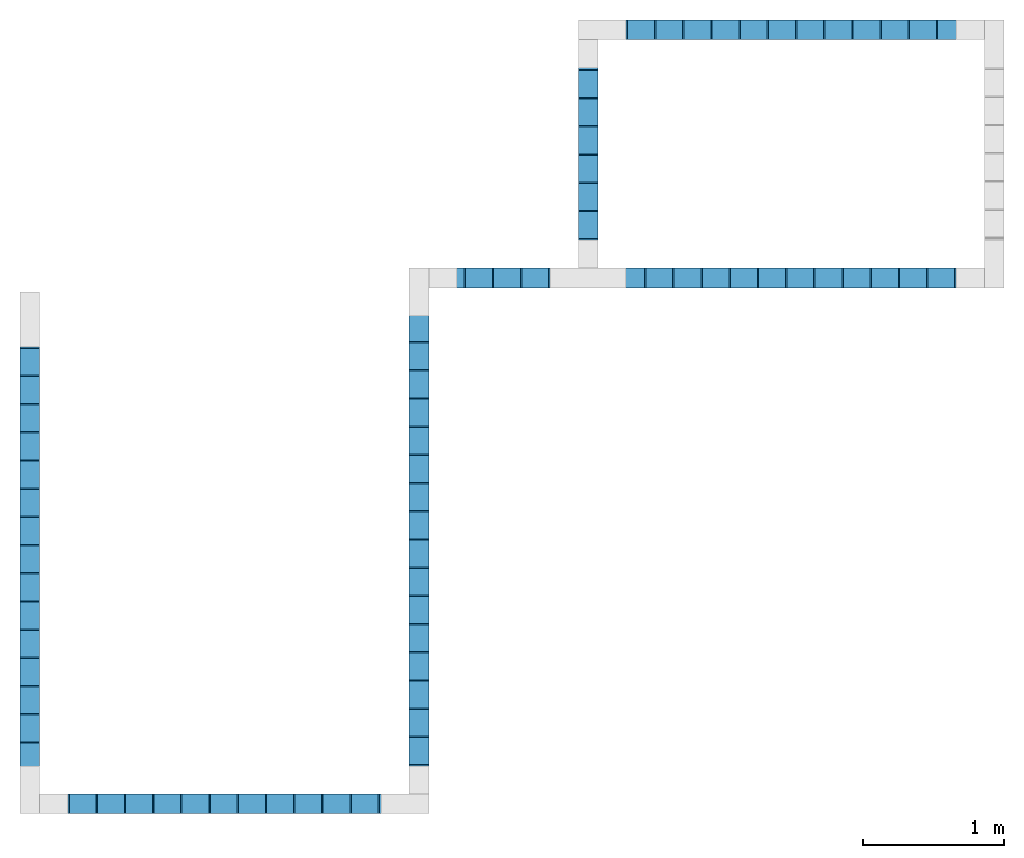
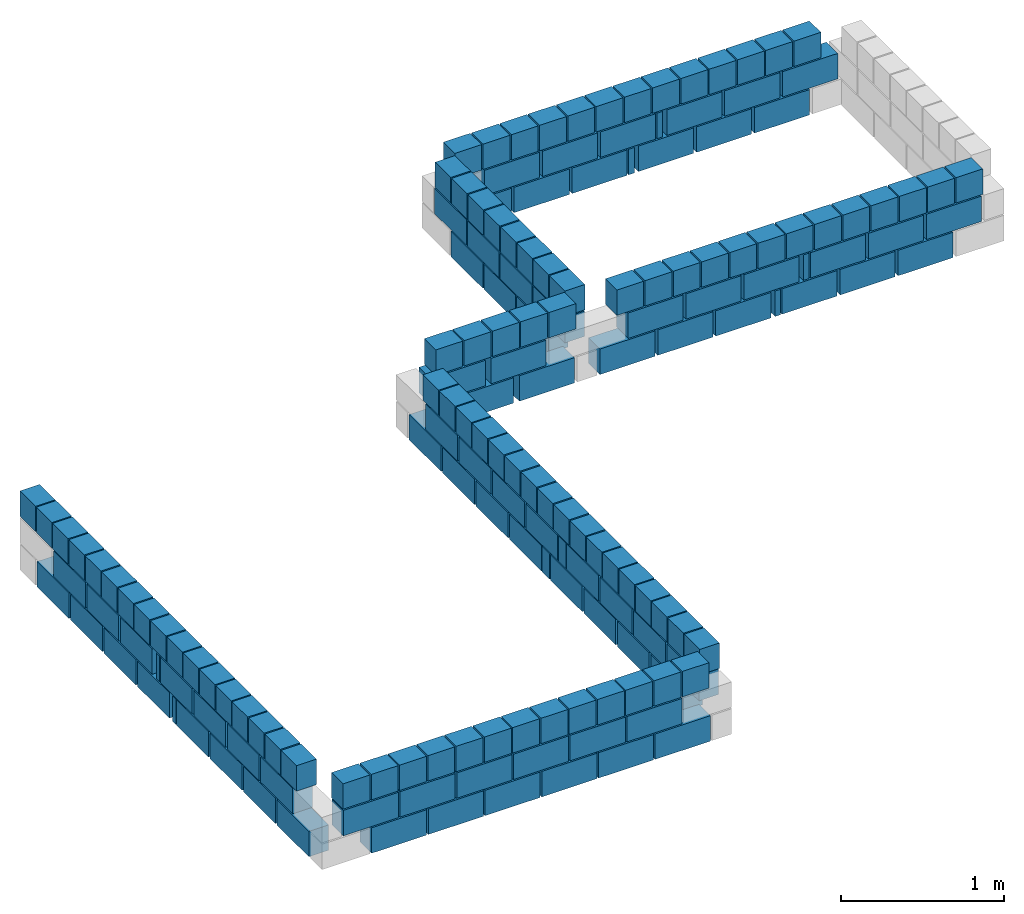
# One storey, part 1 of 2: 7 walls.
"""IFC4 building model written with IfcOpenShell, lengths in centimetres."""

from ifc_helpers import new_model, si_unit, derived_unit, frame, origin, origin_with_axes, origin_2d_with_axis, place, context, project, spatial, rectangle, extrude, element, save


model = new_model("IFC4")

# Units and contexts
model_context = context("Model", 3, precision=1e-05, world=origin_with_axes(), identifier="Body")
ifc_project = project(units=[si_unit("LENGTHUNIT", "METRE", prefix="CENTI"), si_unit("VOLUMEUNIT", "CUBIC_METRE"), si_unit("AREAUNIT", "SQUARE_METRE"), si_unit("POWERUNIT", "WATT"), si_unit("LUMINOUSFLUXUNIT", "LUMEN"), si_unit("ELECTRICCURRENTUNIT", "AMPERE"), si_unit("PRESSUREUNIT", "PASCAL", prefix="KILO"), si_unit("MASSUNIT", "GRAM", prefix="KILO"), si_unit("PLANEANGLEUNIT", "RADIAN"), derived_unit("VOLUMETRICFLOWRATEUNIT", [(si_unit("LENGTHUNIT", "METRE"), 3), (si_unit("TIMEUNIT", "SECOND"), -1)])], contexts=[model_context])

# Site, building, storey
site_placement = place(None, origin_with_axes())
site = spatial("IfcSite", under=ifc_project, at=site_placement)
building_placement = place(site_placement, origin())
building = spatial("IfcBuilding", under=site, at=building_placement)
placement_1 = place(building_placement, origin_with_axes())
placement_2 = place(placement_1, frame((0.0, 0.0, 272.0), z_axis=(0.0, 0.0, 1.0), x_axis=(1.0, 0.0, 0.0)))
storey_placement = place(placement_2, frame((0.0, 0.0, 100.0), z_axis=(0.0, 0.0, 1.0), x_axis=(1.0, 0.0, 0.0)))
storey = spatial("IfcBuildingStorey", under=building, at=storey_placement, Name="RESP1", CompositionType="ELEMENT", Elevation=372.0)

# Walls
wall_1_placement = place(storey_placement, frame((547.51, 557.01, 59.0), z_axis=(0.0, 0.0, 1.0), x_axis=(1.0, 0.0, 0.0)))
element("IfcWall", 1, at=wall_1_placement, inside=storey, Name="PAR-RESP1-1", context=model_context, shape_type="SolidModel", body=[
    extrude(rectangle(XDim=39.0, YDim=14.0, at=origin_2d_with_axis()), frame((-115.0, 0.0, -59.0), z_axis=(0.0, 0.0, 1.0), x_axis=(1.0, 0.0, 0.0)), (0.0, 0.0, 1.0), 19.0),
    extrude(rectangle(XDim=39.0, YDim=14.0, at=origin_2d_with_axis()), frame((-74.0, 0.0, -59.0), z_axis=(0.0, 0.0, 1.0), x_axis=(1.0, 0.0, 0.0)), (0.0, 0.0, 1.0), 19.0),
    extrude(rectangle(XDim=39.0, YDim=14.0, at=origin_2d_with_axis()), frame((-33.0, 0.0, -59.0), z_axis=(0.0, 0.0, 1.0), x_axis=(1.0, 0.0, 0.0)), (0.0, 0.0, 1.0), 19.0),
    extrude(rectangle(XDim=39.0, YDim=14.0, at=origin_2d_with_axis()), frame((14.0, 0.0, -59.0), z_axis=(0.0, 0.0, 1.0), x_axis=(1.0, 0.0, 0.0)), (0.0, 0.0, 1.0), 19.0),
    extrude(rectangle(XDim=39.0, YDim=14.0, at=origin_2d_with_axis()), frame((55.0, 0.0, -59.0), z_axis=(0.0, 0.0, 1.0), x_axis=(1.0, 0.0, 0.0)), (0.0, 0.0, 1.0), 19.0),
    extrude(rectangle(XDim=39.0, YDim=14.0, at=origin_2d_with_axis()), frame((96.0, 0.0, -59.0), z_axis=(0.0, 0.0, 1.0), x_axis=(1.0, 0.0, 0.0)), (0.0, 0.0, 1.0), 19.0),
    extrude(rectangle(XDim=4.0, YDim=14.0, at=origin_2d_with_axis()), frame((-10.5, 0.0, -59.0), z_axis=(0.0, 0.0, 1.0), x_axis=(1.0, 0.0, 0.0)), (0.0, 0.0, 1.0), 19.0),
    extrude(rectangle(XDim=39.0, YDim=14.0, at=origin_2d_with_axis()), frame((-95.0, 0.0, -39.0), z_axis=(0.0, 0.0, 1.0), x_axis=(1.0, 0.0, 0.0)), (0.0, 0.0, 1.0), 19.0),
    extrude(rectangle(XDim=39.0, YDim=14.0, at=origin_2d_with_axis()), frame((-54.0, 0.0, -39.0), z_axis=(0.0, 0.0, 1.0), x_axis=(1.0, 0.0, 0.0)), (0.0, 0.0, 1.0), 19.0),
    extrude(rectangle(XDim=39.0, YDim=14.0, at=origin_2d_with_axis()), frame((-13.0, 0.0, -39.0), z_axis=(0.0, 0.0, 1.0), x_axis=(1.0, 0.0, 0.0)), (0.0, 0.0, 1.0), 19.0),
    extrude(rectangle(XDim=39.0, YDim=14.0, at=origin_2d_with_axis()), frame((34.0, 0.0, -39.0), z_axis=(0.0, 0.0, 1.0), x_axis=(1.0, 0.0, 0.0)), (0.0, 0.0, 1.0), 19.0),
    extrude(rectangle(XDim=39.0, YDim=14.0, at=origin_2d_with_axis()), frame((75.0, 0.0, -39.0), z_axis=(0.0, 0.0, 1.0), x_axis=(1.0, 0.0, 0.0)), (0.0, 0.0, 1.0), 19.0),
    extrude(rectangle(XDim=39.0, YDim=14.0, at=origin_2d_with_axis()), frame((116.0, 0.0, -39.0), z_axis=(0.0, 0.0, 1.0), x_axis=(1.0, 0.0, 0.0)), (0.0, 0.0, 1.0), 19.0),
    extrude(rectangle(XDim=4.0, YDim=14.0, at=origin_2d_with_axis()), frame((9.5, 0.0, -39.0), z_axis=(0.0, 0.0, 1.0), x_axis=(1.0, 0.0, 0.0)), (0.0, 0.0, 1.0), 19.0),
    extrude(rectangle(XDim=19.0, YDim=14.0, at=origin_2d_with_axis()), frame((-126.0, 0.0, -19.0), z_axis=(0.0, 0.0, 1.0), x_axis=(1.0, 0.0, 0.0)), (0.0, 0.0, 1.0), 19.0),
    extrude(rectangle(XDim=19.0, YDim=14.0, at=origin_2d_with_axis()), frame((-106.0, 0.0, -19.0), z_axis=(0.0, 0.0, 1.0), x_axis=(1.0, 0.0, 0.0)), (0.0, 0.0, 1.0), 19.0),
    extrude(rectangle(XDim=19.0, YDim=14.0, at=origin_2d_with_axis()), frame((-86.0, 0.0, -19.0), z_axis=(0.0, 0.0, 1.0), x_axis=(1.0, 0.0, 0.0)), (0.0, 0.0, 1.0), 19.0),
    extrude(rectangle(XDim=19.0, YDim=14.0, at=origin_2d_with_axis()), frame((-66.0, 0.0, -19.0), z_axis=(0.0, 0.0, 1.0), x_axis=(1.0, 0.0, 0.0)), (0.0, 0.0, 1.0), 19.0),
    extrude(rectangle(XDim=19.0, YDim=14.0, at=origin_2d_with_axis()), frame((-46.0, 0.0, -19.0), z_axis=(0.0, 0.0, 1.0), x_axis=(1.0, 0.0, 0.0)), (0.0, 0.0, 1.0), 19.0),
    extrude(rectangle(XDim=19.0, YDim=14.0, at=origin_2d_with_axis()), frame((-26.0, 0.0, -19.0), z_axis=(0.0, 0.0, 1.0), x_axis=(1.0, 0.0, 0.0)), (0.0, 0.0, 1.0), 19.0),
    extrude(rectangle(XDim=19.0, YDim=14.0, at=origin_2d_with_axis()), frame((-6.0, 0.0, -19.0), z_axis=(0.0, 0.0, 1.0), x_axis=(1.0, 0.0, 0.0)), (0.0, 0.0, 1.0), 19.0),
    extrude(rectangle(XDim=19.0, YDim=14.0, at=origin_2d_with_axis()), frame((14.0, 0.0, -19.0), z_axis=(0.0, 0.0, 1.0), x_axis=(1.0, 0.0, 0.0)), (0.0, 0.0, 1.0), 19.0),
    extrude(rectangle(XDim=19.0, YDim=14.0, at=origin_2d_with_axis()), frame((34.0, 0.0, -19.0), z_axis=(0.0, 0.0, 1.0), x_axis=(1.0, 0.0, 0.0)), (0.0, 0.0, 1.0), 19.0),
    extrude(rectangle(XDim=19.0, YDim=14.0, at=origin_2d_with_axis()), frame((54.0, 0.0, -19.0), z_axis=(0.0, 0.0, 1.0), x_axis=(1.0, 0.0, 0.0)), (0.0, 0.0, 1.0), 19.0),
    extrude(rectangle(XDim=19.0, YDim=14.0, at=origin_2d_with_axis()), frame((74.0, 0.0, -19.0), z_axis=(0.0, 0.0, 1.0), x_axis=(1.0, 0.0, 0.0)), (0.0, 0.0, 1.0), 19.0),
    extrude(rectangle(XDim=19.0, YDim=14.0, at=origin_2d_with_axis()), frame((94.0, 0.0, -19.0), z_axis=(0.0, 0.0, 1.0), x_axis=(1.0, 0.0, 0.0)), (0.0, 0.0, 1.0), 19.0),
    extrude(rectangle(XDim=19.0, YDim=14.0, at=origin_2d_with_axis()), frame((114.0, 0.0, -19.0), z_axis=(0.0, 0.0, 1.0), x_axis=(1.0, 0.0, 0.0)), (0.0, 0.0, 1.0), 19.0),
])
wall_2_placement = place(storey_placement, frame((548.51, 381.01, 59.0), z_axis=(0.0, 0.0, 1.0), x_axis=(1.0, 0.0, 0.0)))
element("IfcWall", 2, at=wall_2_placement, inside=storey, Name="PAR-RESP1-2", context=model_context, shape_type="SolidModel", body=[
    extrude(rectangle(XDim=39.0, YDim=14.0, at=origin_2d_with_axis()), frame((95.0, 0.0, -59.0), z_axis=(0.0, 0.0, 1.0), x_axis=(-1.0, 0.0, 0.0)), (0.0, 0.0, 1.0), 19.0),
    extrude(rectangle(XDim=39.0, YDim=14.0, at=origin_2d_with_axis()), frame((54.0, 0.0, -59.0), z_axis=(0.0, 0.0, 1.0), x_axis=(-1.0, 0.0, 0.0)), (0.0, 0.0, 1.0), 19.0),
    extrude(rectangle(XDim=39.0, YDim=14.0, at=origin_2d_with_axis()), frame((13.0, 0.0, -59.0), z_axis=(0.0, 0.0, 1.0), x_axis=(-1.0, 0.0, 0.0)), (0.0, 0.0, 1.0), 19.0),
    extrude(rectangle(XDim=39.0, YDim=14.0, at=origin_2d_with_axis()), frame((-34.0, 0.0, -59.0), z_axis=(0.0, 0.0, 1.0), x_axis=(-1.0, 0.0, 0.0)), (0.0, 0.0, 1.0), 19.0),
    extrude(rectangle(XDim=39.0, YDim=14.0, at=origin_2d_with_axis()), frame((-75.0, 0.0, -59.0), z_axis=(0.0, 0.0, 1.0), x_axis=(-1.0, 0.0, 0.0)), (0.0, 0.0, 1.0), 19.0),
    extrude(rectangle(XDim=39.0, YDim=14.0, at=origin_2d_with_axis()), frame((-116.0, 0.0, -59.0), z_axis=(0.0, 0.0, 1.0), x_axis=(-1.0, 0.0, 0.0)), (0.0, 0.0, 1.0), 19.0),
    extrude(rectangle(XDim=4.0, YDim=14.0, at=origin_2d_with_axis()), frame((-9.5, 0.0, -59.0), z_axis=(0.0, 0.0, 1.0), x_axis=(-1.0, 0.0, 0.0)), (0.0, 0.0, 1.0), 19.0),
    extrude(rectangle(XDim=39.0, YDim=14.0, at=origin_2d_with_axis()), frame((115.0, 0.0, -39.0), z_axis=(0.0, 0.0, 1.0), x_axis=(-1.0, 0.0, 0.0)), (0.0, 0.0, 1.0), 19.0),
    extrude(rectangle(XDim=39.0, YDim=14.0, at=origin_2d_with_axis()), frame((74.0, 0.0, -39.0), z_axis=(0.0, 0.0, 1.0), x_axis=(-1.0, 0.0, 0.0)), (0.0, 0.0, 1.0), 19.0),
    extrude(rectangle(XDim=39.0, YDim=14.0, at=origin_2d_with_axis()), frame((33.0, 0.0, -39.0), z_axis=(0.0, 0.0, 1.0), x_axis=(-1.0, 0.0, 0.0)), (0.0, 0.0, 1.0), 19.0),
    extrude(rectangle(XDim=39.0, YDim=14.0, at=origin_2d_with_axis()), frame((-14.0, 0.0, -39.0), z_axis=(0.0, 0.0, 1.0), x_axis=(-1.0, 0.0, 0.0)), (0.0, 0.0, 1.0), 19.0),
    extrude(rectangle(XDim=39.0, YDim=14.0, at=origin_2d_with_axis()), frame((-55.0, 0.0, -39.0), z_axis=(0.0, 0.0, 1.0), x_axis=(-1.0, 0.0, 0.0)), (0.0, 0.0, 1.0), 19.0),
    extrude(rectangle(XDim=39.0, YDim=14.0, at=origin_2d_with_axis()), frame((-96.0, 0.0, -39.0), z_axis=(0.0, 0.0, 1.0), x_axis=(-1.0, 0.0, 0.0)), (0.0, 0.0, 1.0), 19.0),
    extrude(rectangle(XDim=4.0, YDim=14.0, at=origin_2d_with_axis()), frame((10.5, 0.0, -39.0), z_axis=(0.0, 0.0, 1.0), x_axis=(-1.0, 0.0, 0.0)), (0.0, 0.0, 1.0), 19.0),
    extrude(rectangle(XDim=19.0, YDim=14.0, at=origin_2d_with_axis()), frame((126.0, 0.0, -19.0), z_axis=(0.0, 0.0, 1.0), x_axis=(-1.0, 0.0, 0.0)), (0.0, 0.0, 1.0), 19.0),
    extrude(rectangle(XDim=19.0, YDim=14.0, at=origin_2d_with_axis()), frame((106.0, 0.0, -19.0), z_axis=(0.0, 0.0, 1.0), x_axis=(-1.0, 0.0, 0.0)), (0.0, 0.0, 1.0), 19.0),
    extrude(rectangle(XDim=19.0, YDim=14.0, at=origin_2d_with_axis()), frame((86.0, 0.0, -19.0), z_axis=(0.0, 0.0, 1.0), x_axis=(-1.0, 0.0, 0.0)), (0.0, 0.0, 1.0), 19.0),
    extrude(rectangle(XDim=19.0, YDim=14.0, at=origin_2d_with_axis()), frame((66.0, 0.0, -19.0), z_axis=(0.0, 0.0, 1.0), x_axis=(-1.0, 0.0, 0.0)), (0.0, 0.0, 1.0), 19.0),
    extrude(rectangle(XDim=19.0, YDim=14.0, at=origin_2d_with_axis()), frame((46.0, 0.0, -19.0), z_axis=(0.0, 0.0, 1.0), x_axis=(-1.0, 0.0, 0.0)), (0.0, 0.0, 1.0), 19.0),
    extrude(rectangle(XDim=19.0, YDim=14.0, at=origin_2d_with_axis()), frame((26.0, 0.0, -19.0), z_axis=(0.0, 0.0, 1.0), x_axis=(-1.0, 0.0, 0.0)), (0.0, 0.0, 1.0), 19.0),
    extrude(rectangle(XDim=19.0, YDim=14.0, at=origin_2d_with_axis()), frame((6.0, 0.0, -19.0), z_axis=(0.0, 0.0, 1.0), x_axis=(-1.0, 0.0, 0.0)), (0.0, 0.0, 1.0), 19.0),
    extrude(rectangle(XDim=19.0, YDim=14.0, at=origin_2d_with_axis()), frame((-14.0, 0.0, -19.0), z_axis=(0.0, 0.0, 1.0), x_axis=(-1.0, 0.0, 0.0)), (0.0, 0.0, 1.0), 19.0),
    extrude(rectangle(XDim=19.0, YDim=14.0, at=origin_2d_with_axis()), frame((-34.0, 0.0, -19.0), z_axis=(0.0, 0.0, 1.0), x_axis=(-1.0, 0.0, 0.0)), (0.0, 0.0, 1.0), 19.0),
    extrude(rectangle(XDim=19.0, YDim=14.0, at=origin_2d_with_axis()), frame((-54.0, 0.0, -19.0), z_axis=(0.0, 0.0, 1.0), x_axis=(-1.0, 0.0, 0.0)), (0.0, 0.0, 1.0), 19.0),
    extrude(rectangle(XDim=19.0, YDim=14.0, at=origin_2d_with_axis()), frame((-74.0, 0.0, -19.0), z_axis=(0.0, 0.0, 1.0), x_axis=(-1.0, 0.0, 0.0)), (0.0, 0.0, 1.0), 19.0),
    extrude(rectangle(XDim=19.0, YDim=14.0, at=origin_2d_with_axis()), frame((-94.0, 0.0, -19.0), z_axis=(0.0, 0.0, 1.0), x_axis=(-1.0, 0.0, 0.0)), (0.0, 0.0, 1.0), 19.0),
    extrude(rectangle(XDim=19.0, YDim=14.0, at=origin_2d_with_axis()), frame((-114.0, 0.0, -19.0), z_axis=(0.0, 0.0, 1.0), x_axis=(-1.0, 0.0, 0.0)), (0.0, 0.0, 1.0), 19.0),
])
wall_3_placement = place(storey_placement, frame((344.505, 381.01, 59.0), z_axis=(0.0, 0.0, 1.0), x_axis=(1.0, 0.0, 0.0)))
element("IfcWall", 3, at=wall_3_placement, inside=storey, Name="PAR-RESP1-2", context=model_context, shape_type="SolidModel", body=[
    extrude(rectangle(XDim=39.0, YDim=14.0, at=origin_2d_with_axis()), frame((31.005, 0.0, -59.0), z_axis=(0.0, 0.0, 1.0), x_axis=(-1.0, 0.0, 0.0)), (0.0, 0.0, 1.0), 19.0),
    extrude(rectangle(XDim=39.0, YDim=14.0, at=origin_2d_with_axis()), frame((-12.005, 0.0, -59.0), z_axis=(0.0, 0.0, 1.0), x_axis=(-1.0, 0.0, 0.0)), (0.0, 0.0, 1.0), 19.0),
    extrude(rectangle(XDim=39.0, YDim=14.0, at=origin_2d_with_axis()), frame((11.005, 0.0, -39.0), z_axis=(0.0, 0.0, 1.0), x_axis=(-1.0, 0.0, 0.0)), (0.0, 0.0, 1.0), 19.0),
    extrude(rectangle(XDim=39.0, YDim=14.0, at=origin_2d_with_axis()), frame((-32.005, 0.0, -39.0), z_axis=(0.0, 0.0, 1.0), x_axis=(-1.0, 0.0, 0.0)), (0.0, 0.0, 1.0), 19.0),
    extrude(rectangle(XDim=19.0, YDim=14.0, at=origin_2d_with_axis()), frame((42.005, 0.0, -19.0), z_axis=(0.0, 0.0, 1.0), x_axis=(-1.0, 0.0, 0.0)), (0.0, 0.0, 1.0), 19.0),
    extrude(rectangle(XDim=19.0, YDim=14.0, at=origin_2d_with_axis()), frame((22.005, 0.0, -19.0), z_axis=(0.0, 0.0, 1.0), x_axis=(-1.0, 0.0, 0.0)), (0.0, 0.0, 1.0), 19.0),
    extrude(rectangle(XDim=19.0, YDim=14.0, at=origin_2d_with_axis()), frame((2.005, 0.0, -19.0), z_axis=(0.0, 0.0, 1.0), x_axis=(-1.0, 0.0, 0.0)), (0.0, 0.0, 1.0), 19.0),
    extrude(rectangle(XDim=19.0, YDim=14.0, at=origin_2d_with_axis()), frame((-17.995, 0.0, -19.0), z_axis=(0.0, 0.0, 1.0), x_axis=(-1.0, 0.0, 0.0)), (0.0, 0.0, 1.0), 19.0),
    extrude(rectangle(XDim=19.0, YDim=14.0, at=origin_2d_with_axis()), frame((-37.995, 0.0, -19.0), z_axis=(0.0, 0.0, 1.0), x_axis=(-1.0, 0.0, 0.0)), (0.0, 0.0, 1.0), 19.0),
])
wall_4_placement = place(storey_placement, frame((145.92857142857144, 8.0, 59.0), z_axis=(0.0, 0.0, 1.0), x_axis=(1.0, 0.0, 0.0)))
element("IfcWall", 4, at=wall_4_placement, inside=storey, Name="PAR-RESP1-3", context=model_context, shape_type="SolidModel", body=[
    extrude(rectangle(XDim=39.0, YDim=14.0, at=origin_2d_with_axis()), frame((-90.2857142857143, 0.0, -59.0), z_axis=(0.0, 0.0, 1.0), x_axis=(1.0, 0.0, 0.0)), (0.0, 0.0, 1.0), 19.0),
    extrude(rectangle(XDim=39.0, YDim=14.0, at=origin_2d_with_axis()), frame((-50.14285714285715, 0.0, -59.0), z_axis=(0.0, 0.0, 1.0), x_axis=(1.0, 0.0, 0.0)), (0.0, 0.0, 1.0), 19.0),
    extrude(rectangle(XDim=39.0, YDim=14.0, at=origin_2d_with_axis()), frame((-10.0, 0.0, -59.0), z_axis=(0.0, 0.0, 1.0), x_axis=(1.0, 0.0, 0.0)), (0.0, 0.0, 1.0), 19.0),
    extrude(rectangle(XDim=39.0, YDim=14.0, at=origin_2d_with_axis()), frame((30.14285714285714, 0.0, -59.0), z_axis=(0.0, 0.0, 1.0), x_axis=(1.0, 0.0, 0.0)), (0.0, 0.0, 1.0), 19.0),
    extrude(rectangle(XDim=39.0, YDim=14.0, at=origin_2d_with_axis()), frame((70.28571428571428, 0.0, -59.0), z_axis=(0.0, 0.0, 1.0), x_axis=(1.0, 0.0, 0.0)), (0.0, 0.0, 1.0), 19.0),
    extrude(rectangle(XDim=39.0, YDim=14.0, at=origin_2d_with_axis()), frame((110.42857142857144, 0.0, -59.0), z_axis=(0.0, 0.0, 1.0), x_axis=(1.0, 0.0, 0.0)), (0.0, 0.0, 1.0), 19.0),
    extrude(rectangle(XDim=39.0, YDim=14.0, at=origin_2d_with_axis()), frame((-110.2857142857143, 0.0, -39.0), z_axis=(0.0, 0.0, 1.0), x_axis=(1.0, 0.0, 0.0)), (0.0, 0.0, 1.0), 19.0),
    extrude(rectangle(XDim=39.0, YDim=14.0, at=origin_2d_with_axis()), frame((-70.14285714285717, 0.0, -39.0), z_axis=(0.0, 0.0, 1.0), x_axis=(1.0, 0.0, 0.0)), (0.0, 0.0, 1.0), 19.0),
    extrude(rectangle(XDim=39.0, YDim=14.0, at=origin_2d_with_axis()), frame((-30.0, 0.0, -39.0), z_axis=(0.0, 0.0, 1.0), x_axis=(1.0, 0.0, 0.0)), (0.0, 0.0, 1.0), 19.0),
    extrude(rectangle(XDim=39.0, YDim=14.0, at=origin_2d_with_axis()), frame((10.14285714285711, 0.0, -39.0), z_axis=(0.0, 0.0, 1.0), x_axis=(1.0, 0.0, 0.0)), (0.0, 0.0, 1.0), 19.0),
    extrude(rectangle(XDim=39.0, YDim=14.0, at=origin_2d_with_axis()), frame((50.28571428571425, 0.0, -39.0), z_axis=(0.0, 0.0, 1.0), x_axis=(1.0, 0.0, 0.0)), (0.0, 0.0, 1.0), 19.0),
    extrude(rectangle(XDim=39.0, YDim=14.0, at=origin_2d_with_axis()), frame((90.42857142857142, 0.0, -39.0), z_axis=(0.0, 0.0, 1.0), x_axis=(1.0, 0.0, 0.0)), (0.0, 0.0, 1.0), 19.0),
    extrude(rectangle(XDim=19.0, YDim=14.0, at=origin_2d_with_axis()), frame((-120.42857142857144, 0.0, -19.0), z_axis=(0.0, 0.0, 1.0), x_axis=(1.0, 0.0, 0.0)), (0.0, 0.0, 1.0), 19.0),
    extrude(rectangle(XDim=19.0, YDim=14.0, at=origin_2d_with_axis()), frame((-100.42857142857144, 0.0, -19.0), z_axis=(0.0, 0.0, 1.0), x_axis=(1.0, 0.0, 0.0)), (0.0, 0.0, 1.0), 19.0),
    extrude(rectangle(XDim=19.0, YDim=14.0, at=origin_2d_with_axis()), frame((-80.42857142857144, 0.0, -19.0), z_axis=(0.0, 0.0, 1.0), x_axis=(1.0, 0.0, 0.0)), (0.0, 0.0, 1.0), 19.0),
    extrude(rectangle(XDim=19.0, YDim=14.0, at=origin_2d_with_axis()), frame((-60.428571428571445, 0.0, -19.0), z_axis=(0.0, 0.0, 1.0), x_axis=(1.0, 0.0, 0.0)), (0.0, 0.0, 1.0), 19.0),
    extrude(rectangle(XDim=19.0, YDim=14.0, at=origin_2d_with_axis()), frame((-40.42857142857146, 0.0, -19.0), z_axis=(0.0, 0.0, 1.0), x_axis=(1.0, 0.0, 0.0)), (0.0, 0.0, 1.0), 19.0),
    extrude(rectangle(XDim=19.0, YDim=14.0, at=origin_2d_with_axis()), frame((-20.428571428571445, 0.0, -19.0), z_axis=(0.0, 0.0, 1.0), x_axis=(1.0, 0.0, 0.0)), (0.0, 0.0, 1.0), 19.0),
    extrude(rectangle(XDim=19.0, YDim=14.0, at=origin_2d_with_axis()), frame((-0.428571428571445, 0.0, -19.0), z_axis=(0.0, 0.0, 1.0), x_axis=(1.0, 0.0, 0.0)), (0.0, 0.0, 1.0), 19.0),
    extrude(rectangle(XDim=19.0, YDim=14.0, at=origin_2d_with_axis()), frame((19.571428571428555, 0.0, -19.0), z_axis=(0.0, 0.0, 1.0), x_axis=(1.0, 0.0, 0.0)), (0.0, 0.0, 1.0), 19.0),
    extrude(rectangle(XDim=19.0, YDim=14.0, at=origin_2d_with_axis()), frame((39.571428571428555, 0.0, -19.0), z_axis=(0.0, 0.0, 1.0), x_axis=(1.0, 0.0, 0.0)), (0.0, 0.0, 1.0), 19.0),
    extrude(rectangle(XDim=19.0, YDim=14.0, at=origin_2d_with_axis()), frame((59.571428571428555, 0.0, -19.0), z_axis=(0.0, 0.0, 1.0), x_axis=(1.0, 0.0, 0.0)), (0.0, 0.0, 1.0), 19.0),
    extrude(rectangle(XDim=19.0, YDim=14.0, at=origin_2d_with_axis()), frame((79.57142857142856, 0.0, -19.0), z_axis=(0.0, 0.0, 1.0), x_axis=(1.0, 0.0, 0.0)), (0.0, 0.0, 1.0), 19.0),
    extrude(rectangle(XDim=19.0, YDim=14.0, at=origin_2d_with_axis()), frame((99.57142857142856, 0.0, -19.0), z_axis=(0.0, 0.0, 1.0), x_axis=(1.0, 0.0, 0.0)), (0.0, 0.0, 1.0), 19.0),
    extrude(rectangle(XDim=19.0, YDim=14.0, at=origin_2d_with_axis()), frame((119.57142857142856, 0.0, -19.0), z_axis=(0.0, 0.0, 1.0), x_axis=(1.0, 0.0, 0.0)), (0.0, 0.0, 1.0), 19.0),
])
wall_5_placement = place(storey_placement, frame((8.0, 194.005, 59.0), z_axis=(0.0, 0.0, 1.0), x_axis=(1.0, 0.0, 0.0)))
element("IfcWall", 5, at=wall_5_placement, inside=storey, Name="PAR-RESP1-4", context=model_context, shape_type="SolidModel", body=[
    extrude(rectangle(XDim=39.0, YDim=14.0, at=origin_2d_with_axis()), frame((0.0, -157.505, -59.0), z_axis=(0.0, 0.0, 1.0), x_axis=(0.0, 1.0, 0.0)), (0.0, 0.0, 1.0), 19.0),
    extrude(rectangle(XDim=39.0, YDim=14.0, at=origin_2d_with_axis()), frame((0.0, -116.505, -59.0), z_axis=(0.0, 0.0, 1.0), x_axis=(0.0, 1.0, 0.0)), (0.0, 0.0, 1.0), 19.0),
    extrude(rectangle(XDim=39.0, YDim=14.0, at=origin_2d_with_axis()), frame((0.0, -75.505, -59.0), z_axis=(0.0, 0.0, 1.0), x_axis=(0.0, 1.0, 0.0)), (0.0, 0.0, 1.0), 19.0),
    extrude(rectangle(XDim=39.0, YDim=14.0, at=origin_2d_with_axis()), frame((0.0, -34.505, -59.0), z_axis=(0.0, 0.0, 1.0), x_axis=(0.0, 1.0, 0.0)), (0.0, 0.0, 1.0), 19.0),
    extrude(rectangle(XDim=39.0, YDim=14.0, at=origin_2d_with_axis()), frame((0.0, 13.505, -59.0), z_axis=(0.0, 0.0, 1.0), x_axis=(0.0, 1.0, 0.0)), (0.0, 0.0, 1.0), 19.0),
    extrude(rectangle(XDim=39.0, YDim=14.0, at=origin_2d_with_axis()), frame((0.0, 54.505, -59.0), z_axis=(0.0, 0.0, 1.0), x_axis=(0.0, 1.0, 0.0)), (0.0, 0.0, 1.0), 19.0),
    extrude(rectangle(XDim=39.0, YDim=14.0, at=origin_2d_with_axis()), frame((0.0, 95.505, -59.0), z_axis=(0.0, 0.0, 1.0), x_axis=(0.0, 1.0, 0.0)), (0.0, 0.0, 1.0), 19.0),
    extrude(rectangle(XDim=39.0, YDim=14.0, at=origin_2d_with_axis()), frame((0.0, 136.505, -59.0), z_axis=(0.0, 0.0, 1.0), x_axis=(0.0, 1.0, 0.0)), (0.0, 0.0, 1.0), 19.0),
    extrude(rectangle(XDim=4.0, YDim=14.0, at=origin_2d_with_axis()), frame((0.0, -12.005, -59.0), z_axis=(0.0, 0.0, 1.0), x_axis=(0.0, 1.0, 0.0)), (0.0, 0.0, 1.0), 19.0),
    extrude(rectangle(XDim=39.0, YDim=14.0, at=origin_2d_with_axis()), frame((0.0, -137.505, -39.0), z_axis=(0.0, 0.0, 1.0), x_axis=(0.0, 1.0, 0.0)), (0.0, 0.0, 1.0), 19.0),
    extrude(rectangle(XDim=39.0, YDim=14.0, at=origin_2d_with_axis()), frame((0.0, -96.505, -39.0), z_axis=(0.0, 0.0, 1.0), x_axis=(0.0, 1.0, 0.0)), (0.0, 0.0, 1.0), 19.0),
    extrude(rectangle(XDim=39.0, YDim=14.0, at=origin_2d_with_axis()), frame((0.0, -55.505, -39.0), z_axis=(0.0, 0.0, 1.0), x_axis=(0.0, 1.0, 0.0)), (0.0, 0.0, 1.0), 19.0),
    extrude(rectangle(XDim=39.0, YDim=14.0, at=origin_2d_with_axis()), frame((0.0, -14.505, -39.0), z_axis=(0.0, 0.0, 1.0), x_axis=(0.0, 1.0, 0.0)), (0.0, 0.0, 1.0), 19.0),
    extrude(rectangle(XDim=39.0, YDim=14.0, at=origin_2d_with_axis()), frame((0.0, 34.505, -39.0), z_axis=(0.0, 0.0, 1.0), x_axis=(0.0, 1.0, 0.0)), (0.0, 0.0, 1.0), 19.0),
    extrude(rectangle(XDim=39.0, YDim=14.0, at=origin_2d_with_axis()), frame((0.0, 75.505, -39.0), z_axis=(0.0, 0.0, 1.0), x_axis=(0.0, 1.0, 0.0)), (0.0, 0.0, 1.0), 19.0),
    extrude(rectangle(XDim=39.0, YDim=14.0, at=origin_2d_with_axis()), frame((0.0, 116.505, -39.0), z_axis=(0.0, 0.0, 1.0), x_axis=(0.0, 1.0, 0.0)), (0.0, 0.0, 1.0), 19.0),
    extrude(rectangle(XDim=4.0, YDim=14.0, at=origin_2d_with_axis()), frame((0.0, 7.995, -39.0), z_axis=(0.0, 0.0, 1.0), x_axis=(0.0, 1.0, 0.0)), (0.0, 0.0, 1.0), 19.0),
    extrude(rectangle(XDim=19.0, YDim=14.0, at=origin_2d_with_axis()), frame((0.0, -152.495, -19.0), z_axis=(0.0, 0.0, 1.0), x_axis=(0.0, 1.0, 0.0)), (0.0, 0.0, 1.0), 19.0),
    extrude(rectangle(XDim=19.0, YDim=14.0, at=origin_2d_with_axis()), frame((0.0, -132.495, -19.0), z_axis=(0.0, 0.0, 1.0), x_axis=(0.0, 1.0, 0.0)), (0.0, 0.0, 1.0), 19.0),
    extrude(rectangle(XDim=19.0, YDim=14.0, at=origin_2d_with_axis()), frame((0.0, -112.495, -19.0), z_axis=(0.0, 0.0, 1.0), x_axis=(0.0, 1.0, 0.0)), (0.0, 0.0, 1.0), 19.0),
    extrude(rectangle(XDim=19.0, YDim=14.0, at=origin_2d_with_axis()), frame((0.0, -92.495, -19.0), z_axis=(0.0, 0.0, 1.0), x_axis=(0.0, 1.0, 0.0)), (0.0, 0.0, 1.0), 19.0),
    extrude(rectangle(XDim=19.0, YDim=14.0, at=origin_2d_with_axis()), frame((0.0, -72.495, -19.0), z_axis=(0.0, 0.0, 1.0), x_axis=(0.0, 1.0, 0.0)), (0.0, 0.0, 1.0), 19.0),
    extrude(rectangle(XDim=19.0, YDim=14.0, at=origin_2d_with_axis()), frame((0.0, -52.495, -19.0), z_axis=(0.0, 0.0, 1.0), x_axis=(0.0, 1.0, 0.0)), (0.0, 0.0, 1.0), 19.0),
    extrude(rectangle(XDim=19.0, YDim=14.0, at=origin_2d_with_axis()), frame((0.0, -32.495, -19.0), z_axis=(0.0, 0.0, 1.0), x_axis=(0.0, 1.0, 0.0)), (0.0, 0.0, 1.0), 19.0),
    extrude(rectangle(XDim=19.0, YDim=14.0, at=origin_2d_with_axis()), frame((0.0, -12.495, -19.0), z_axis=(0.0, 0.0, 1.0), x_axis=(0.0, 1.0, 0.0)), (0.0, 0.0, 1.0), 19.0),
    extrude(rectangle(XDim=19.0, YDim=14.0, at=origin_2d_with_axis()), frame((0.0, 7.505, -19.0), z_axis=(0.0, 0.0, 1.0), x_axis=(0.0, 1.0, 0.0)), (0.0, 0.0, 1.0), 19.0),
    extrude(rectangle(XDim=19.0, YDim=14.0, at=origin_2d_with_axis()), frame((0.0, 27.505, -19.0), z_axis=(0.0, 0.0, 1.0), x_axis=(0.0, 1.0, 0.0)), (0.0, 0.0, 1.0), 19.0),
    extrude(rectangle(XDim=19.0, YDim=14.0, at=origin_2d_with_axis()), frame((0.0, 47.505, -19.0), z_axis=(0.0, 0.0, 1.0), x_axis=(0.0, 1.0, 0.0)), (0.0, 0.0, 1.0), 19.0),
    extrude(rectangle(XDim=19.0, YDim=14.0, at=origin_2d_with_axis()), frame((0.0, 67.505, -19.0), z_axis=(0.0, 0.0, 1.0), x_axis=(0.0, 1.0, 0.0)), (0.0, 0.0, 1.0), 19.0),
    extrude(rectangle(XDim=19.0, YDim=14.0, at=origin_2d_with_axis()), frame((0.0, 87.505, -19.0), z_axis=(0.0, 0.0, 1.0), x_axis=(0.0, 1.0, 0.0)), (0.0, 0.0, 1.0), 19.0),
    extrude(rectangle(XDim=19.0, YDim=14.0, at=origin_2d_with_axis()), frame((0.0, 107.505, -19.0), z_axis=(0.0, 0.0, 1.0), x_axis=(0.0, 1.0, 0.0)), (0.0, 0.0, 1.0), 19.0),
    extrude(rectangle(XDim=19.0, YDim=14.0, at=origin_2d_with_axis()), frame((0.0, 127.505, -19.0), z_axis=(0.0, 0.0, 1.0), x_axis=(0.0, 1.0, 0.0)), (0.0, 0.0, 1.0), 19.0),
    extrude(rectangle(XDim=19.0, YDim=14.0, at=origin_2d_with_axis()), frame((0.0, 147.505, -19.0), z_axis=(0.0, 0.0, 1.0), x_axis=(0.0, 1.0, 0.0)), (0.0, 0.0, 1.0), 19.0),
    extrude(rectangle(XDim=19.0, YDim=14.0, at=origin_2d_with_axis()), frame((0.0, 167.505, -19.0), z_axis=(0.0, 0.0, 1.0), x_axis=(0.0, 1.0, 0.0)), (0.0, 0.0, 1.0), 19.0),
])
wall_6_placement = place(storey_placement, frame((284.0, 194.005, 59.0), z_axis=(0.0, 0.0, 1.0), x_axis=(1.0, 0.0, 0.0)))
element("IfcWall", 6, at=wall_6_placement, inside=storey, Name="PAR-RESP1-5", context=model_context, shape_type="SolidModel", body=[
    extrude(rectangle(XDim=39.0, YDim=14.0, at=origin_2d_with_axis()), frame((0.0, -137.505, -59.0), z_axis=(0.0, 0.0, 1.0), x_axis=(0.0, 1.0, 0.0)), (0.0, 0.0, 1.0), 19.0),
    extrude(rectangle(XDim=39.0, YDim=14.0, at=origin_2d_with_axis()), frame((0.0, -96.505, -59.0), z_axis=(0.0, 0.0, 1.0), x_axis=(0.0, 1.0, 0.0)), (0.0, 0.0, 1.0), 19.0),
    extrude(rectangle(XDim=39.0, YDim=14.0, at=origin_2d_with_axis()), frame((0.0, -55.505, -59.0), z_axis=(0.0, 0.0, 1.0), x_axis=(0.0, 1.0, 0.0)), (0.0, 0.0, 1.0), 19.0),
    extrude(rectangle(XDim=39.0, YDim=14.0, at=origin_2d_with_axis()), frame((0.0, -14.505, -59.0), z_axis=(0.0, 0.0, 1.0), x_axis=(0.0, 1.0, 0.0)), (0.0, 0.0, 1.0), 19.0),
    extrude(rectangle(XDim=39.0, YDim=14.0, at=origin_2d_with_axis()), frame((0.0, 35.505, -59.0), z_axis=(0.0, 0.0, 1.0), x_axis=(0.0, 1.0, 0.0)), (0.0, 0.0, 1.0), 19.0),
    extrude(rectangle(XDim=39.0, YDim=14.0, at=origin_2d_with_axis()), frame((0.0, 76.505, -59.0), z_axis=(0.0, 0.0, 1.0), x_axis=(0.0, 1.0, 0.0)), (0.0, 0.0, 1.0), 19.0),
    extrude(rectangle(XDim=39.0, YDim=14.0, at=origin_2d_with_axis()), frame((0.0, 117.505, -59.0), z_axis=(0.0, 0.0, 1.0), x_axis=(0.0, 1.0, 0.0)), (0.0, 0.0, 1.0), 19.0),
    extrude(rectangle(XDim=39.0, YDim=14.0, at=origin_2d_with_axis()), frame((0.0, 158.505, -59.0), z_axis=(0.0, 0.0, 1.0), x_axis=(0.0, 1.0, 0.0)), (0.0, 0.0, 1.0), 19.0),
    extrude(rectangle(XDim=9.0, YDim=14.0, at=origin_2d_with_axis()), frame((0.0, 10.495, -59.0), z_axis=(0.0, 0.0, 1.0), x_axis=(0.0, 1.0, 0.0)), (0.0, 0.0, 1.0), 19.0),
    extrude(rectangle(XDim=39.0, YDim=14.0, at=origin_2d_with_axis()), frame((0.0, -157.505, -39.0), z_axis=(0.0, 0.0, 1.0), x_axis=(0.0, 1.0, 0.0)), (0.0, 0.0, 1.0), 19.0),
    extrude(rectangle(XDim=39.0, YDim=14.0, at=origin_2d_with_axis()), frame((0.0, -116.505, -39.0), z_axis=(0.0, 0.0, 1.0), x_axis=(0.0, 1.0, 0.0)), (0.0, 0.0, 1.0), 19.0),
    extrude(rectangle(XDim=39.0, YDim=14.0, at=origin_2d_with_axis()), frame((0.0, -75.505, -39.0), z_axis=(0.0, 0.0, 1.0), x_axis=(0.0, 1.0, 0.0)), (0.0, 0.0, 1.0), 19.0),
    extrude(rectangle(XDim=39.0, YDim=14.0, at=origin_2d_with_axis()), frame((0.0, -34.505, -39.0), z_axis=(0.0, 0.0, 1.0), x_axis=(0.0, 1.0, 0.0)), (0.0, 0.0, 1.0), 19.0),
    extrude(rectangle(XDim=39.0, YDim=14.0, at=origin_2d_with_axis()), frame((0.0, 15.505, -39.0), z_axis=(0.0, 0.0, 1.0), x_axis=(0.0, 1.0, 0.0)), (0.0, 0.0, 1.0), 19.0),
    extrude(rectangle(XDim=39.0, YDim=14.0, at=origin_2d_with_axis()), frame((0.0, 56.505, -39.0), z_axis=(0.0, 0.0, 1.0), x_axis=(0.0, 1.0, 0.0)), (0.0, 0.0, 1.0), 19.0),
    extrude(rectangle(XDim=39.0, YDim=14.0, at=origin_2d_with_axis()), frame((0.0, 97.505, -39.0), z_axis=(0.0, 0.0, 1.0), x_axis=(0.0, 1.0, 0.0)), (0.0, 0.0, 1.0), 19.0),
    extrude(rectangle(XDim=39.0, YDim=14.0, at=origin_2d_with_axis()), frame((0.0, 138.505, -39.0), z_axis=(0.0, 0.0, 1.0), x_axis=(0.0, 1.0, 0.0)), (0.0, 0.0, 1.0), 19.0),
    extrude(rectangle(XDim=9.0, YDim=14.0, at=origin_2d_with_axis()), frame((0.0, -9.505, -39.0), z_axis=(0.0, 0.0, 1.0), x_axis=(0.0, 1.0, 0.0)), (0.0, 0.0, 1.0), 19.0),
    extrude(rectangle(XDim=19.0, YDim=14.0, at=origin_2d_with_axis()), frame((0.0, -168.505, -19.0), z_axis=(0.0, 0.0, 1.0), x_axis=(0.0, 1.0, 0.0)), (0.0, 0.0, 1.0), 19.0),
    extrude(rectangle(XDim=19.0, YDim=14.0, at=origin_2d_with_axis()), frame((0.0, -148.505, -19.0), z_axis=(0.0, 0.0, 1.0), x_axis=(0.0, 1.0, 0.0)), (0.0, 0.0, 1.0), 19.0),
    extrude(rectangle(XDim=19.0, YDim=14.0, at=origin_2d_with_axis()), frame((0.0, -128.505, -19.0), z_axis=(0.0, 0.0, 1.0), x_axis=(0.0, 1.0, 0.0)), (0.0, 0.0, 1.0), 19.0),
    extrude(rectangle(XDim=19.0, YDim=14.0, at=origin_2d_with_axis()), frame((0.0, -108.505, -19.0), z_axis=(0.0, 0.0, 1.0), x_axis=(0.0, 1.0, 0.0)), (0.0, 0.0, 1.0), 19.0),
    extrude(rectangle(XDim=19.0, YDim=14.0, at=origin_2d_with_axis()), frame((0.0, -88.505, -19.0), z_axis=(0.0, 0.0, 1.0), x_axis=(0.0, 1.0, 0.0)), (0.0, 0.0, 1.0), 19.0),
    extrude(rectangle(XDim=19.0, YDim=14.0, at=origin_2d_with_axis()), frame((0.0, -68.505, -19.0), z_axis=(0.0, 0.0, 1.0), x_axis=(0.0, 1.0, 0.0)), (0.0, 0.0, 1.0), 19.0),
    extrude(rectangle(XDim=19.0, YDim=14.0, at=origin_2d_with_axis()), frame((0.0, -48.505, -19.0), z_axis=(0.0, 0.0, 1.0), x_axis=(0.0, 1.0, 0.0)), (0.0, 0.0, 1.0), 19.0),
    extrude(rectangle(XDim=19.0, YDim=14.0, at=origin_2d_with_axis()), frame((0.0, -28.505, -19.0), z_axis=(0.0, 0.0, 1.0), x_axis=(0.0, 1.0, 0.0)), (0.0, 0.0, 1.0), 19.0),
    extrude(rectangle(XDim=19.0, YDim=14.0, at=origin_2d_with_axis()), frame((0.0, -8.505, -19.0), z_axis=(0.0, 0.0, 1.0), x_axis=(0.0, 1.0, 0.0)), (0.0, 0.0, 1.0), 19.0),
    extrude(rectangle(XDim=19.0, YDim=14.0, at=origin_2d_with_axis()), frame((0.0, 11.495, -19.0), z_axis=(0.0, 0.0, 1.0), x_axis=(0.0, 1.0, 0.0)), (0.0, 0.0, 1.0), 19.0),
    extrude(rectangle(XDim=19.0, YDim=14.0, at=origin_2d_with_axis()), frame((0.0, 31.495, -19.0), z_axis=(0.0, 0.0, 1.0), x_axis=(0.0, 1.0, 0.0)), (0.0, 0.0, 1.0), 19.0),
    extrude(rectangle(XDim=19.0, YDim=14.0, at=origin_2d_with_axis()), frame((0.0, 51.495, -19.0), z_axis=(0.0, 0.0, 1.0), x_axis=(0.0, 1.0, 0.0)), (0.0, 0.0, 1.0), 19.0),
    extrude(rectangle(XDim=19.0, YDim=14.0, at=origin_2d_with_axis()), frame((0.0, 71.495, -19.0), z_axis=(0.0, 0.0, 1.0), x_axis=(0.0, 1.0, 0.0)), (0.0, 0.0, 1.0), 19.0),
    extrude(rectangle(XDim=19.0, YDim=14.0, at=origin_2d_with_axis()), frame((0.0, 91.495, -19.0), z_axis=(0.0, 0.0, 1.0), x_axis=(0.0, 1.0, 0.0)), (0.0, 0.0, 1.0), 19.0),
    extrude(rectangle(XDim=19.0, YDim=14.0, at=origin_2d_with_axis()), frame((0.0, 111.495, -19.0), z_axis=(0.0, 0.0, 1.0), x_axis=(0.0, 1.0, 0.0)), (0.0, 0.0, 1.0), 19.0),
    extrude(rectangle(XDim=19.0, YDim=14.0, at=origin_2d_with_axis()), frame((0.0, 131.495, -19.0), z_axis=(0.0, 0.0, 1.0), x_axis=(0.0, 1.0, 0.0)), (0.0, 0.0, 1.0), 19.0),
    extrude(rectangle(XDim=19.0, YDim=14.0, at=origin_2d_with_axis()), frame((0.0, 151.495, -19.0), z_axis=(0.0, 0.0, 1.0), x_axis=(0.0, 1.0, 0.0)), (0.0, 0.0, 1.0), 19.0),
])
wall_7_placement = place(storey_placement, frame((404.01, 468.91, 59.0), z_axis=(0.0, 0.0, 1.0), x_axis=(1.0, 0.0, 0.0)))
element("IfcWall", 7, at=wall_7_placement, inside=storey, Name="PAR-RESP1-6", context=model_context, shape_type="SolidModel", body=[
    extrude(rectangle(XDim=39.0, YDim=14.0, at=origin_2d_with_axis()), frame((0.0, -40.15, -59.0), z_axis=(0.0, 0.0, 1.0), x_axis=(0.0, 1.0, 0.0)), (0.0, 0.0, 1.0), 19.0),
    extrude(rectangle(XDim=39.0, YDim=14.0, at=origin_2d_with_axis()), frame((0.0, 0.1, -59.0), z_axis=(0.0, 0.0, 1.0), x_axis=(0.0, 1.0, 0.0)), (0.0, 0.0, 1.0), 19.0),
    extrude(rectangle(XDim=39.0, YDim=14.0, at=origin_2d_with_axis()), frame((0.0, 40.35, -59.0), z_axis=(0.0, 0.0, 1.0), x_axis=(0.0, 1.0, 0.0)), (0.0, 0.0, 1.0), 19.0),
    extrude(rectangle(XDim=39.0, YDim=14.0, at=origin_2d_with_axis()), frame((0.0, -60.2, -39.0), z_axis=(0.0, 0.0, 1.0), x_axis=(0.0, 1.0, 0.0)), (0.0, 0.0, 1.0), 19.0),
    extrude(rectangle(XDim=39.0, YDim=14.0, at=origin_2d_with_axis()), frame((0.0, -20.0, -39.0), z_axis=(0.0, 0.0, 1.0), x_axis=(0.0, 1.0, 0.0)), (0.0, 0.0, 1.0), 19.0),
    extrude(rectangle(XDim=39.0, YDim=14.0, at=origin_2d_with_axis()), frame((0.0, 20.2, -39.0), z_axis=(0.0, 0.0, 1.0), x_axis=(0.0, 1.0, 0.0)), (0.0, 0.0, 1.0), 19.0),
    extrude(rectangle(XDim=39.0, YDim=14.0, at=origin_2d_with_axis()), frame((0.0, 60.4, -39.0), z_axis=(0.0, 0.0, 1.0), x_axis=(0.0, 1.0, 0.0)), (0.0, 0.0, 1.0), 19.0),
    extrude(rectangle(XDim=19.0, YDim=14.0, at=origin_2d_with_axis()), frame((0.0, -70.4, -19.0), z_axis=(0.0, 0.0, 1.0), x_axis=(0.0, 1.0, 0.0)), (0.0, 0.0, 1.0), 19.0),
    extrude(rectangle(XDim=19.0, YDim=14.0, at=origin_2d_with_axis()), frame((0.0, -50.4, -19.0), z_axis=(0.0, 0.0, 1.0), x_axis=(0.0, 1.0, 0.0)), (0.0, 0.0, 1.0), 19.0),
    extrude(rectangle(XDim=19.0, YDim=14.0, at=origin_2d_with_axis()), frame((0.0, -30.4, -19.0), z_axis=(0.0, 0.0, 1.0), x_axis=(0.0, 1.0, 0.0)), (0.0, 0.0, 1.0), 19.0),
    extrude(rectangle(XDim=19.0, YDim=14.0, at=origin_2d_with_axis()), frame((0.0, -10.4, -19.0), z_axis=(0.0, 0.0, 1.0), x_axis=(0.0, 1.0, 0.0)), (0.0, 0.0, 1.0), 19.0),
    extrude(rectangle(XDim=19.0, YDim=14.0, at=origin_2d_with_axis()), frame((0.0, 9.6, -19.0), z_axis=(0.0, 0.0, 1.0), x_axis=(0.0, 1.0, 0.0)), (0.0, 0.0, 1.0), 19.0),
    extrude(rectangle(XDim=19.0, YDim=14.0, at=origin_2d_with_axis()), frame((0.0, 29.6, -19.0), z_axis=(0.0, 0.0, 1.0), x_axis=(0.0, 1.0, 0.0)), (0.0, 0.0, 1.0), 19.0),
    extrude(rectangle(XDim=19.0, YDim=14.0, at=origin_2d_with_axis()), frame((0.0, 49.6, -19.0), z_axis=(0.0, 0.0, 1.0), x_axis=(0.0, 1.0, 0.0)), (0.0, 0.0, 1.0), 19.0),
    extrude(rectangle(XDim=19.0, YDim=14.0, at=origin_2d_with_axis()), frame((0.0, 69.6, -19.0), z_axis=(0.0, 0.0, 1.0), x_axis=(0.0, 1.0, 0.0)), (0.0, 0.0, 1.0), 19.0),
])

save(model, "model.ifc")
